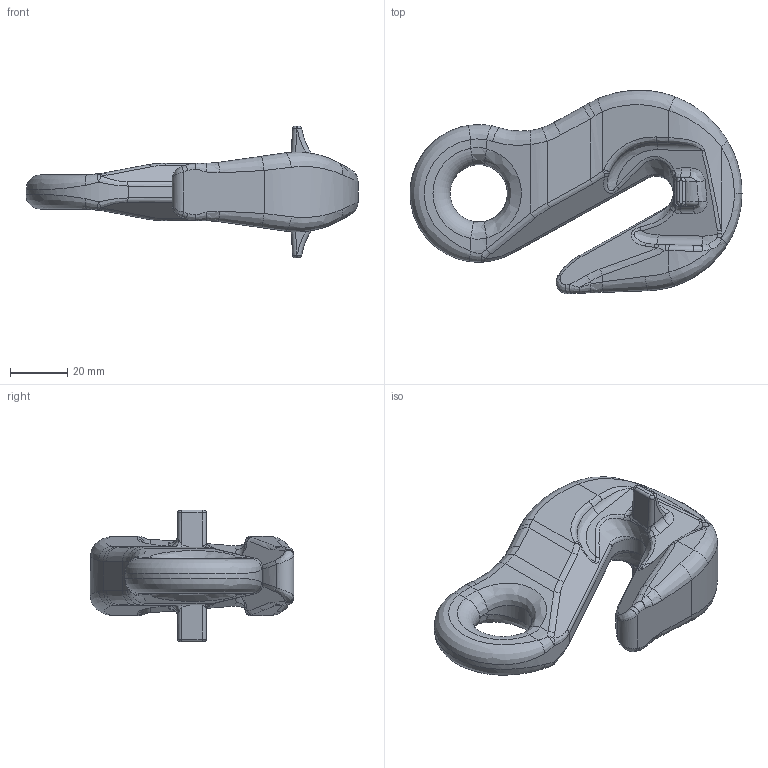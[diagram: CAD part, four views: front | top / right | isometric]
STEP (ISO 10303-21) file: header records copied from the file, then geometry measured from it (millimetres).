
FILE_DESCRIPTION(/* description */ (''),/* implementation_level */ '2;1');
FILE_NAME(/* name */ 'PW_10_Kundenmodell.stp',/* time_stamp */ '2018-02-01T14:55:05+01:00',/* author */ (''),/* organization */ (''),/* preprocessor_version */ 'ST-DEVELOPER v16',/* originating_system */ 'SIEMENS PLM Software NX 11.0',/* authorisation */ '');
FILE_SCHEMA (('AUTOMOTIVE_DESIGN { 1 0 10303 214 3 1 1 1 }'));
Length unit declared in the file: millimetre
Products named in the file (1): zer3288EF38goko
Bounding box: 115.88 x 70.98 x 46 mm (x, y, z)
Volume: 90104.3 mm3; surface area: 17373 mm2
Topology: 1 solids, 1 shells, 245 faces, 577 edges, 332 vertices
Faces by surface type: bspline 160, cylinder 48, plane 30, torus 5, extrusion 2
Entity records: 12271 total; most frequent: CARTESIAN_POINT 7903, ORIENTED_EDGE 1154, EDGE_CURVE 577, DIRECTION 575, VERTEX_POINT 332, B_SPLINE_CURVE_WITH_KNOTS 292, ADVANCED_FACE 245, FACE_OUTER_BOUND 245
